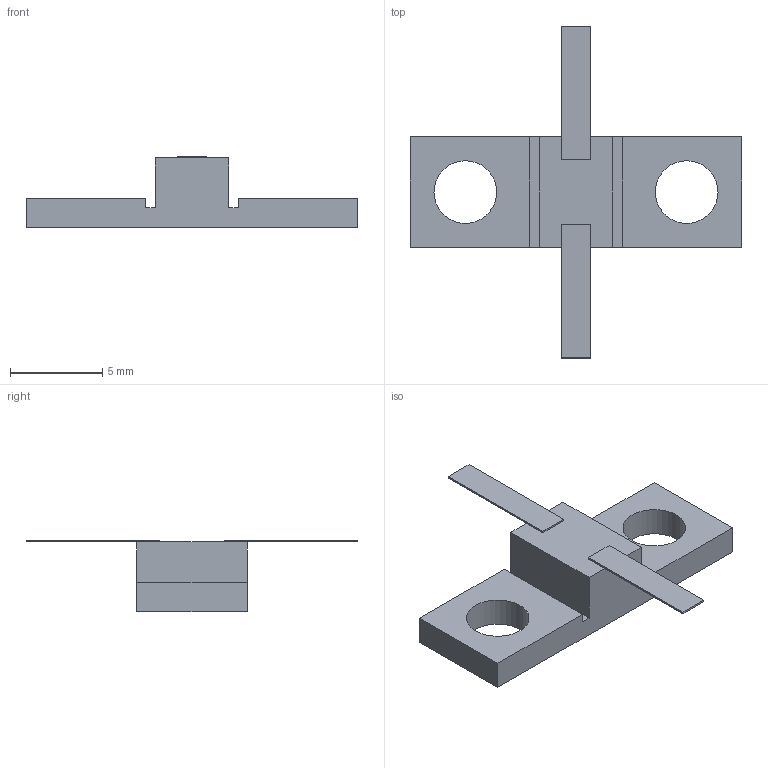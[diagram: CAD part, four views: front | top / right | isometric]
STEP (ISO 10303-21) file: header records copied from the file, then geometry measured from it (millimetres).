
FILE_DESCRIPTION(('STEP AP203'), '1');
FILE_NAME('R1-2', '', ('UNSPECIFIED'), ('UNSPECIFIED'), 'ASCON STEP Converter 1.6', 'ASCON Math Kernel', '');
FILE_SCHEMA(('CONFIG_CONTROL_DESIGN'));
Length unit declared in the file: millimetre
Bounding box: 18 x 18 x 3.9 mm (x, y, z)
Volume: 195.9 mm3; surface area: 387.6 mm2
Topology: 1 solids, 1 shells, 28 faces, 74 edges, 48 vertices
Faces by surface type: plane 26, cylinder 2
Full cylindrical faces by diameter (mm): 3.4 x2
Entity records: 1116 total; most frequent: CARTESIAN_POINT 149, ORIENTED_EDGE 144, DIRECTION 134, EDGE_CURVE 72, LINE 68, VECTOR 68, VERTEX_POINT 48, EDGE_LOOP 34
